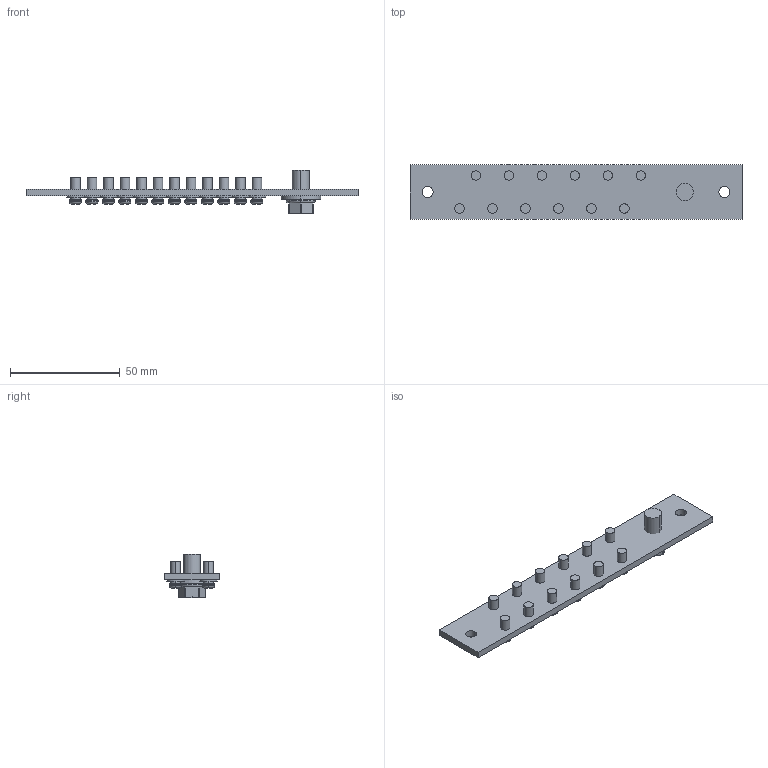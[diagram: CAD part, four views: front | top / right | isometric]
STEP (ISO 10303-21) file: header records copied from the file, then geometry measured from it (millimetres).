
FILE_DESCRIPTION(('Creo Elements/Direct Modeling STEP Export'),'2;1');
FILE_NAME('13.stp','2025-07-24T17:22:46',(''),(''),'PTC Creo Elements/Direct Modeling STEP processor for AP214 (Solid Model)','PTC Creo Elements/Direct Modeling 19.0 09-May-2014 (C) Parametric Technology GmbH','');
FILE_SCHEMA(('AUTOMOTIVE_DESIGN { 1 0 10303 214 1 1 1 1 }'));
Length unit declared in the file: millimetre
Products named in the file (17): QUILT_2-85520_PRT.PRT; QUILT_3-85900_PRT.PRT; M5_1_1_1_1_1_1_1_1_1_1_1_1_1_1_.ASM; CU_PRT.PRT; USER_LIBRARY-SAN_ZU_HE_LUO-2060.PRT; QUILT_1-14960_PRT.PRT; QUILT_2-34360_PRT.PRT; QUILT_3-34740_PRT.PRT; M5_1_1_1_1_1_1_1_1_2_ASM.ASM; A1_ASM.ASM; SCREW_1_1_PRT_PRT.PRT; SCREW_1_2_PRT_PRT.PRT; SCREW_1_ASM_ASM.ASM; SCREW_0723_STP_ASM.ASM; 17N_1_ASM.ASM; 13N_1.ASM; 13.stp
Assembly tree (28 placements, depth 6):
  13.stp
    13N_1.ASM
      17N_1_ASM.ASM
        M5_1_1_1_1_1_1_1_1_2_ASM.ASM  x6
          QUILT_3-34740_PRT.PRT
          QUILT_2-34360_PRT.PRT
          QUILT_1-14960_PRT.PRT
          USER_LIBRARY-SAN_ZU_HE_LUO-2060.PRT
        SCREW_0723_STP_ASM.ASM
          SCREW_1_ASM_ASM.ASM
            SCREW_1_2_PRT_PRT.PRT
            SCREW_1_1_PRT_PRT.PRT
        A1_ASM.ASM
          M5_1_1_1_1_1_1_1_1_2_ASM.ASM  x6
            QUILT_3-34740_PRT.PRT
            QUILT_2-34360_PRT.PRT
            QUILT_1-14960_PRT.PRT
            USER_LIBRARY-SAN_ZU_HE_LUO-2060.PRT
        CU_PRT.PRT
        M5_1_1_1_1_1_1_1_1_1_1_1_1_1_1_.ASM  x2
          QUILT_3-85900_PRT.PRT
          QUILT_2-85520_PRT.PRT
Bounding box: 151 x 25 x 20 mm (x, y, z)
Volume: 14684.1 mm3; surface area: 14168.8 mm2
Topology: 27 solids, 27 shells, 552 faces, 1396 edges, 914 vertices
Faces by surface type: plane 308, cylinder 192, torus 52
Entity records: 4612 total; most frequent: CARTESIAN_POINT 705, DIRECTION 652, ORIENTED_EDGE 636, EDGE_CURVE 318, AXIS2_PLACEMENT_3D 244, VERTEX_POINT 210, VECTOR 164, LINE 164
